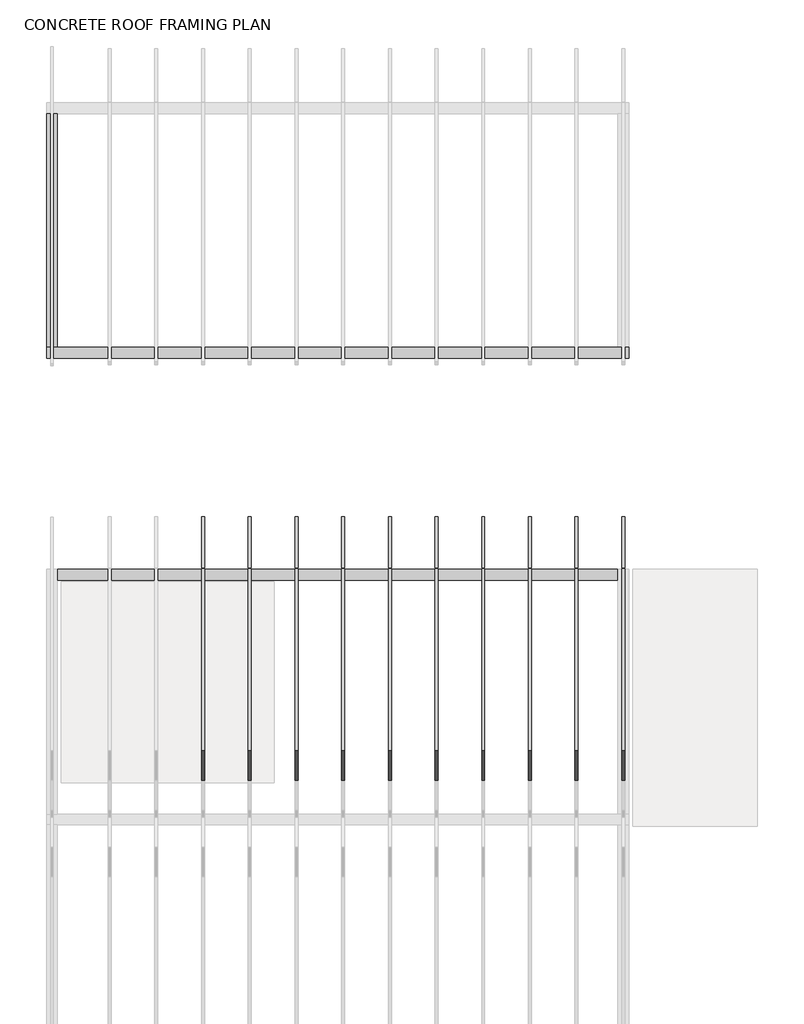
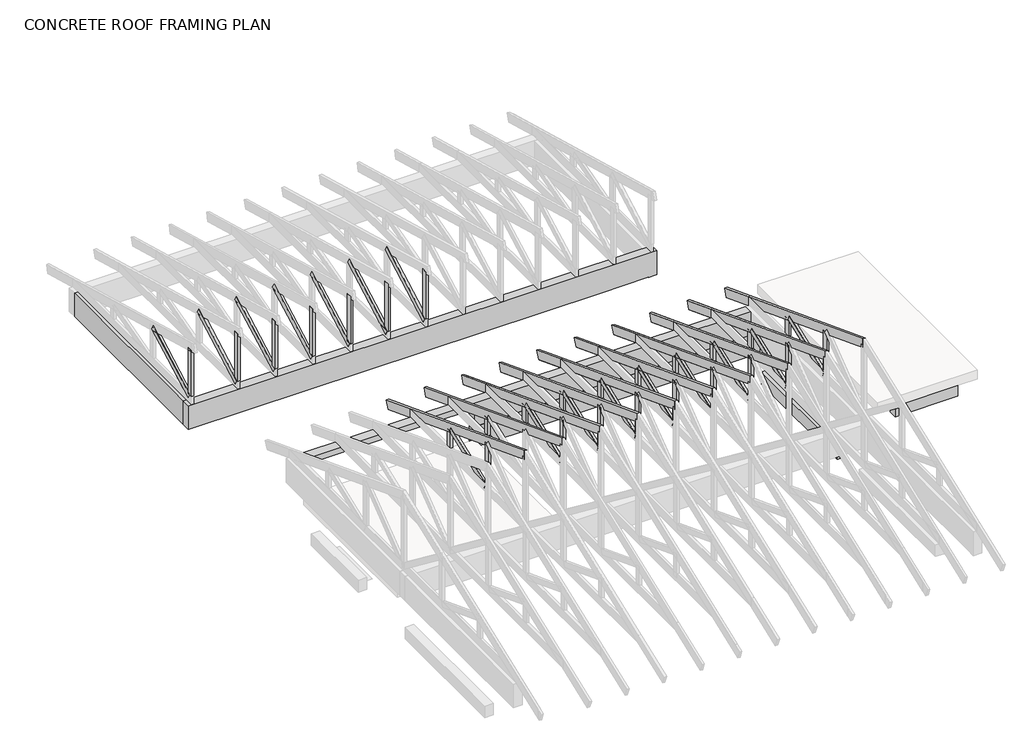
# One storey, part 5 of 6: 59 beams.
"""IFC4 building model written with IfcOpenShell, lengths in millimetres."""

from ifc_helpers import new_model, si_unit, frame, origin, place, context, project, spatial, polyline, outline, extrude, faceted_brep, element, save

model = new_model("IFC4")

# Units and contexts
model_context = context("Model", 3, world=origin())
ifc_project = project(units=[si_unit("LENGTHUNIT", "METRE", prefix="MILLI")], contexts=[model_context])

# Site, building, storey
site = spatial("IfcSite", under=ifc_project)
building = spatial("IfcBuilding", under=site)
storey = spatial("IfcBuildingStorey", under=building, Name="CONCRETE ROOF FRAMING PLAN", Elevation=3048.0)

# Beams
placement = place(None, origin())
element("IfcBeam", 1, ObjectType="Concrete-Rectangular Beam : 5 5/8 x 14", at=placement, inside=storey, context=model_context, shape_type="SweptSolid", body=[
    extrude(outline(polyline([(7610.475, 6391.2749888), (7610.475, 6248.3999888), (2978.15, 6248.3999888), (2978.15, 6391.2749888), (7610.475, 6391.2749888)])), frame((0.0, 0.0, 2438.4), z_axis=(0.0, 0.0, 1.0), x_axis=(1.0, 0.0, 0.0)), (0.0, 0.0, 1.0), 355.6),
])
element("IfcBeam", 2, ObjectType="Concrete-Rectangular Beam : 5 5/8 x 16", at=placement, inside=storey, context=model_context, shape_type="SweptSolid", body=[
    extrude(outline(polyline([(9.525, 12331.2382667), (152.4, 12331.2382667), (152.4, 9283.2382667), (9.525, 9283.2382667), (9.525, 12331.2382667)])), frame((0.0, 0.0, 2032.0), z_axis=(0.0, 0.0, 1.0), x_axis=(1.0, 0.0, 0.0)), (0.0, 0.0, 1.0), 406.4),
])
element("IfcBeam", 3, ObjectType="Concrete-Rectangular Beam : 5 5/8 x 16", at=placement, inside=storey, context=model_context, shape_type="Brep", body=[
    faceted_brep([(9.525, 9283.2382667, 2438.4), (9.525, 9140.3632667, 2438.4), (7610.475, 9140.3632667, 2438.4), (7610.475, 9283.2382667, 2438.4), (7467.6, 9283.2382667, 2438.4), (152.4, 9283.2382667, 2438.4), (9.525, 9283.2382667, 2032.0), (7610.475, 9283.2382667, 2032.0), (7467.6, 9283.2382667, 2032.0), (7467.6, 9283.2382667, 2032.4732556), (6705.6, 9283.2382667, 2032.4732556), (6705.6, 9283.2382667, 2032.0), (152.4, 9283.2382667, 2032.0), (7610.475, 9140.3632667, 2032.0), (7467.6, 9140.3632667, 2032.0), (9.525, 9140.3632667, 2032.0), (6705.6, 9140.3632667, 2032.0), (6705.6, 9140.3632667, 2032.4732556), (7467.6, 9140.3632667, 2032.4732556)], [[[0, 1, 2, 3, 4, 5]], [[6, 0, 5, 4, 3, 7, 8, 9, 10, 11, 12]], [[7, 13, 14, 8]], [[1, 15, 16, 17, 18, 14, 13, 2]], [[1, 0, 6, 15]], [[10, 17, 16, 11]], [[18, 9, 8, 14]], [[17, 10, 9, 18]], [[3, 2, 13, 7]], [[15, 6, 12, 11, 16]]]),
])
element("IfcBeam", 4, ObjectType="Concrete-Rectangular Beam : 5 5/8 x 16", at=placement, inside=storey, context=model_context, shape_type="Brep", body=[
    faceted_brep([(7467.6, 6248.4, 3200.4), (7467.6, 6391.275, 3200.4), (152.4, 6391.275, 3200.4), (152.4, 6248.4, 3200.4), (7467.6, 6248.4, 2794.0), (152.4, 6248.4, 3098.8), (2978.15, 6248.4, 3098.8), (2978.15, 6248.4, 2794.0), (7467.6, 6391.275, 2794.0), (2978.15, 6391.275, 2794.0), (7467.6, 6391.275, 3098.8), (2978.15, 6391.275, 3098.8), (152.4, 6391.275, 3098.8)], [[[0, 1, 2, 3]], [[4, 0, 3, 5, 6, 7]], [[8, 4, 7, 9]], [[1, 10, 8, 9, 11, 12, 2]], [[1, 0, 4, 8, 10]], [[3, 2, 12, 5]], [[11, 6, 5, 12]], [[6, 11, 9, 7]]]),
])
element("IfcBeam", 5, ObjectType="Concrete-Rectangular Beam : 5 5/8 x 8", at=placement, inside=storey, context=model_context, shape_type="SweptSolid", body=[
    extrude(outline(polyline([(7610.475, 3822.8258667), (7467.6, 3822.8258667), (7467.6, 5956.4258667), (7610.475, 5956.4258667), (7610.475, 3822.8258667)])), frame((0.0, 0.0, 2133.6), z_axis=(0.0, 0.0, 1.0), x_axis=(1.0, 0.0, 0.0)), (0.0, 0.0, 1.0), 203.2),
])
element("IfcBeam", 6, ObjectType="Concrete-Rectangular Beam : 5 5/8 x 8", at=placement, inside=storey, context=model_context, shape_type="Brep", body=[
    faceted_brep([(8982.075, 3063.875, 3352.8), (8982.075, 3206.75, 3352.8), (7966.075, 3206.75, 3352.8), (7966.075, 3063.875, 3352.8), (8982.075, 3063.875, 3149.6), (7966.075, 3063.875, 3149.6), (8982.075, 3206.75, 3149.6), (8982.075, 3181.35, 3149.6), (7966.075, 3181.35, 3149.6), (7966.075, 3206.75, 3149.6)], [[[0, 1, 2, 3]], [[4, 0, 3, 5]], [[6, 7, 4, 5, 8, 9]], [[1, 6, 9, 2]], [[1, 0, 4, 7, 6]], [[3, 2, 9, 8, 5]]]),
])
element("IfcBeam", 7, ObjectType="Concrete-Rectangular Beam : 5 5/8 x 8", at=placement, inside=storey, context=model_context, shape_type="Brep", body=[
    faceted_brep([(7966.075, 6365.875, 3352.8), (7966.075, 6223.0, 3352.8), (8982.075, 6223.0, 3352.8), (8982.075, 6365.875, 3352.8), (7966.075, 6223.0, 3149.6), (8982.075, 6223.0, 3149.6), (7966.075, 6248.4, 3149.6), (7966.075, 6365.875, 3149.6), (8982.075, 6365.875, 3149.6), (8982.075, 6248.4, 3149.6)], [[[0, 1, 2, 3]], [[1, 4, 5, 2]], [[4, 6, 7, 8, 9, 5]], [[7, 0, 3, 8]], [[4, 1, 0, 7, 6]], [[3, 2, 5, 9, 8]]]),
])
element("IfcBeam", 8, ObjectType="Dimension Lumber : 2x4", at=placement, inside=storey, context=model_context, shape_type="SweptSolid", body=[
    extrude(outline(polyline([(7519.9875, 4217.9874888), (7519.9875, 4306.8874888), (7558.0875, 4306.8874888), (7558.0875, 4217.9874888), (7519.9875, 4217.9874888)])), frame((0.0, 0.0, 3340.1), z_axis=(0.0, 0.0, 1.0), x_axis=(1.0, 0.0, 0.0)), (0.0, 0.0, 1.0), 702.6647896),
    extrude(outline(polyline([(4306.8874888, 3991.2909709), (4306.8874888, 3340.1), (4217.9874888, 3340.1), (4217.9874888, 4025.2587321), (4306.8874888, 3991.2909709)])), frame((7519.9875, 0.0, 0.0), z_axis=(1.0, 0.0, 0.0), x_axis=(0.0, 1.0, 0.0)), (0.0, 0.0, 1.0), 38.1),
])
element("IfcBeam", 9, ObjectType="Dimension Lumber : 2x4", at=placement, inside=storey, context=model_context, shape_type="SweptSolid", body=[
    extrude(outline(polyline([(7519.9875, 5281.6124888), (7519.9875, 5370.5124888), (7558.0875, 5370.5124888), (7558.0875, 5281.6124888), (7519.9875, 5281.6124888)])), frame((0.0, 0.0, 3340.1), z_axis=(0.0, 0.0, 1.0), x_axis=(1.0, 0.0, 0.0)), (0.0, 0.0, 1.0), 288.9658146),
    extrude(outline(polyline([(5370.5124888, 3584.8909709), (5370.5124888, 3340.1), (5281.6124888, 3340.1), (5281.6124888, 3618.8587321), (5370.5124888, 3584.8909709)])), frame((7519.9875, 0.0, 0.0), z_axis=(1.0, 0.0, 0.0), x_axis=(0.0, 1.0, 0.0)), (0.0, 0.0, 1.0), 38.1),
])
element("IfcBeam", 10, ObjectType="Dimension Lumber : 2x4", at=placement, inside=storey, context=model_context, shape_type="SweptSolid", body=[
    extrude(outline(polyline([(0.0, -38.1), (0.0, 0.0), (1043.4532084, 0.0), (1043.4532084, -38.1), (0.0, -38.1)])), frame((7519.9875, 4322.7527071, 3245.7116294), z_axis=(0.0, -0.3569227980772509, 0.934133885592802), x_axis=(0.0, 0.934133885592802, 0.3569227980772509)), (0.0, 0.0, 1.0), 88.9),
    extrude(outline(polyline([(4322.7527071, 3245.7116294), (4291.0222704, 3328.7561318), (5165.9438292, 3663.0545185), (5290.4805644, 3615.4703331), (4322.7527071, 3245.7116294)])), frame((7519.9875, 0.0, 0.0), z_axis=(1.0, 0.0, 0.0), x_axis=(0.0, 1.0, 0.0)), (0.0, 0.0, 1.0), 38.1),
    extrude(outline(polyline([(4320.7113004, 3340.1), (5165.9438292, 3663.0545185), (5290.4805644, 3615.4703331), (4569.7847709, 3340.1), (4320.7113004, 3340.1)])), frame((7519.9875, 0.0, 0.0), z_axis=(1.0, 0.0, 0.0), x_axis=(0.0, 1.0, 0.0)), (0.0, 0.0, 1.0), 38.1),
])
element("IfcBeam", 11, ObjectType="Dimension Lumber : 2x4", at=placement, inside=storey, context=model_context, shape_type="SweptSolid", body=[
    extrude(outline(polyline([(61.9125, 9229.2632667), (100.0125, 9229.2632667), (100.0125, 9140.3632667), (61.9125, 9140.3632667), (61.9125, 9229.2632667)])), frame((0.0, 0.0, 2578.1), z_axis=(0.0, 0.0, 1.0), x_axis=(1.0, 0.0, 0.0)), (0.0, 0.0, 1.0), 789.3476434),
    extrude(outline(polyline([(9229.2632667, 3327.524966), (9229.2632667, 2578.1), (9140.3632667, 2578.1), (9140.3632667, 3351.9555003), (9229.2632667, 3327.524966)])), frame((61.9125, 0.0, 0.0), z_axis=(1.0, 0.0, 0.0), x_axis=(0.0, 1.0, 0.0)), (0.0, 0.0, 1.0), 38.1),
])
element("IfcBeam", 12, ObjectType="Dimension Lumber : 2x4", at=placement, inside=storey, context=model_context, shape_type="SweptSolid", body=[
    extrude(outline(polyline([(0.0, 38.1), (1165.0883722, 38.1), (1165.0883722, 0.0), (0.0, 0.0), (0.0, 38.1)])), frame((61.9125, 10254.244122, 3066.2479168), z_axis=(0.0, -0.48166192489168, 0.876357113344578), x_axis=(0.0, -0.876357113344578, -0.48166192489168)), (0.0, 0.0, 1.0), 88.9),
    extrude(outline(polyline([(10229.5032206, 3052.6498641), (9233.2106393, 2505.0692088), (9190.3908941, 2582.9773561), (10106.4570266, 3086.4640854), (10229.5032206, 3052.6498641)])), frame((61.9125, 0.0, 0.0), z_axis=(1.0, 0.0, 0.0), x_axis=(0.0, 1.0, 0.0)), (0.0, 0.0, 1.0), 38.1),
    extrude(outline(polyline([(10229.5032206, 3052.6498641), (9366.0861067, 2578.1), (9193.0715784, 2578.1), (9190.3908941, 2582.9773561), (10106.4570266, 3086.4640854), (10229.5032206, 3052.6498641)])), frame((61.9125, 0.0, 0.0), z_axis=(1.0, 0.0, 0.0), x_axis=(0.0, 1.0, 0.0)), (0.0, 0.0, 1.0), 38.1),
])
element("IfcBeam", 13, ObjectType="Dimension Lumber : 2x4", at=placement, inside=storey, context=model_context, shape_type="SweptSolid", body=[
    extrude(outline(polyline([(6910.3875, 4217.9874888), (6910.3875, 4306.8874888), (6948.4875, 4306.8874888), (6948.4875, 4217.9874888), (6910.3875, 4217.9874888)])), frame((0.0, 0.0, 3340.1), z_axis=(0.0, 0.0, 1.0), x_axis=(1.0, 0.0, 0.0)), (0.0, 0.0, 1.0), 702.6647896),
    extrude(outline(polyline([(4306.8874888, 3991.2909709), (4306.8874888, 3340.1), (4217.9874888, 3340.1), (4217.9874888, 4025.2587321), (4306.8874888, 3991.2909709)])), frame((6910.3875, 0.0, 0.0), z_axis=(1.0, 0.0, 0.0), x_axis=(0.0, 1.0, 0.0)), (0.0, 0.0, 1.0), 38.1),
])
element("IfcBeam", 14, ObjectType="Dimension Lumber : 2x4", at=placement, inside=storey, context=model_context, shape_type="SweptSolid", body=[
    extrude(outline(polyline([(6910.3875, 5281.6124888), (6910.3875, 5370.5124888), (6948.4875, 5370.5124888), (6948.4875, 5281.6124888), (6910.3875, 5281.6124888)])), frame((0.0, 0.0, 3340.1), z_axis=(0.0, 0.0, 1.0), x_axis=(1.0, 0.0, 0.0)), (0.0, 0.0, 1.0), 288.9658146),
    extrude(outline(polyline([(5370.5124888, 3584.8909709), (5370.5124888, 3340.1), (5281.6124888, 3340.1), (5281.6124888, 3618.8587321), (5370.5124888, 3584.8909709)])), frame((6910.3875, 0.0, 0.0), z_axis=(1.0, 0.0, 0.0), x_axis=(0.0, 1.0, 0.0)), (0.0, 0.0, 1.0), 38.1),
])
element("IfcBeam", 15, ObjectType="Dimension Lumber : 2x4", at=placement, inside=storey, context=model_context, shape_type="SweptSolid", body=[
    extrude(outline(polyline([(0.0, -38.1), (0.0, 0.0), (1043.4532084, 0.0), (1043.4532084, -38.1), (0.0, -38.1)])), frame((6910.3875, 4322.7527071, 3245.7116294), z_axis=(0.0, -0.3569227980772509, 0.934133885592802), x_axis=(0.0, 0.934133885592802, 0.3569227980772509)), (0.0, 0.0, 1.0), 88.9),
    extrude(outline(polyline([(4320.7113004, 3340.1), (5265.7472704, 3701.1883706), (5297.4777071, 3618.1438682), (4569.7847709, 3340.1), (4320.7113004, 3340.1)])), frame((6910.3875, 0.0, 0.0), z_axis=(1.0, 0.0, 0.0), x_axis=(0.0, 1.0, 0.0)), (0.0, 0.0, 1.0), 38.1),
    extrude(outline(polyline([(4320.7113004, 3340.1), (5165.9438292, 3663.0545185), (5290.4805644, 3615.4703331), (4569.7847709, 3340.1), (4320.7113004, 3340.1)])), frame((6910.3875, 0.0, 0.0), z_axis=(1.0, 0.0, 0.0), x_axis=(0.0, 1.0, 0.0)), (0.0, 0.0, 1.0), 38.1),
])
element("IfcBeam", 16, ObjectType="Dimension Lumber : 2x4", at=placement, inside=storey, context=model_context, shape_type="SweptSolid", body=[
    extrude(outline(polyline([(6300.7875, 4217.9874888), (6300.7875, 4306.8874888), (6338.8875, 4306.8874888), (6338.8875, 4217.9874888), (6300.7875, 4217.9874888)])), frame((0.0, 0.0, 3340.1), z_axis=(0.0, 0.0, 1.0), x_axis=(1.0, 0.0, 0.0)), (0.0, 0.0, 1.0), 702.6647896),
    extrude(outline(polyline([(4306.8874888, 3991.2909709), (4306.8874888, 3340.1), (4217.9874888, 3340.1), (4217.9874888, 4025.2587321), (4306.8874888, 3991.2909709)])), frame((6300.7875, 0.0, 0.0), z_axis=(1.0, 0.0, 0.0), x_axis=(0.0, 1.0, 0.0)), (0.0, 0.0, 1.0), 38.1),
])
element("IfcBeam", 17, ObjectType="Dimension Lumber : 2x4", at=placement, inside=storey, context=model_context, shape_type="SweptSolid", body=[
    extrude(outline(polyline([(6300.7875, 5281.6124888), (6300.7875, 5370.5124888), (6338.8875, 5370.5124888), (6338.8875, 5281.6124888), (6300.7875, 5281.6124888)])), frame((0.0, 0.0, 3340.1), z_axis=(0.0, 0.0, 1.0), x_axis=(1.0, 0.0, 0.0)), (0.0, 0.0, 1.0), 288.9658146),
    extrude(outline(polyline([(5370.5124888, 3584.8909709), (5370.5124888, 3340.1), (5281.6124888, 3340.1), (5281.6124888, 3618.8587321), (5370.5124888, 3584.8909709)])), frame((6300.7875, 0.0, 0.0), z_axis=(1.0, 0.0, 0.0), x_axis=(0.0, 1.0, 0.0)), (0.0, 0.0, 1.0), 38.1),
])
element("IfcBeam", 18, ObjectType="Dimension Lumber : 2x4", at=placement, inside=storey, context=model_context, shape_type="SweptSolid", body=[
    extrude(outline(polyline([(0.0, -38.1), (0.0, 0.0), (1043.4532084, 0.0), (1043.4532084, -38.1), (0.0, -38.1)])), frame((6300.7875, 4322.7527071, 3245.7116294), z_axis=(0.0, -0.3569227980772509, 0.934133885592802), x_axis=(0.0, 0.934133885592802, 0.3569227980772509)), (0.0, 0.0, 1.0), 88.9),
    extrude(outline(polyline([(4320.7113004, 3340.1), (5265.7472704, 3701.1883706), (5297.4777071, 3618.1438682), (4569.7847709, 3340.1), (4320.7113004, 3340.1)])), frame((6300.7875, 0.0, 0.0), z_axis=(1.0, 0.0, 0.0), x_axis=(0.0, 1.0, 0.0)), (0.0, 0.0, 1.0), 38.1),
    extrude(outline(polyline([(4320.7113004, 3340.1), (5165.9438292, 3663.0545185), (5290.4805644, 3615.4703331), (4569.7847709, 3340.1), (4320.7113004, 3340.1)])), frame((6300.7875, 0.0, 0.0), z_axis=(1.0, 0.0, 0.0), x_axis=(0.0, 1.0, 0.0)), (0.0, 0.0, 1.0), 38.1),
])
element("IfcBeam", 19, ObjectType="Dimension Lumber : 2x4", at=placement, inside=storey, context=model_context, shape_type="SweptSolid", body=[
    extrude(outline(polyline([(5691.1875, 4217.9874888), (5691.1875, 4306.8874888), (5729.2875, 4306.8874888), (5729.2875, 4217.9874888), (5691.1875, 4217.9874888)])), frame((0.0, 0.0, 3340.1), z_axis=(0.0, 0.0, 1.0), x_axis=(1.0, 0.0, 0.0)), (0.0, 0.0, 1.0), 702.6647896),
    extrude(outline(polyline([(4306.8874888, 3991.2909709), (4306.8874888, 3340.1), (4217.9874888, 3340.1), (4217.9874888, 4025.2587321), (4306.8874888, 3991.2909709)])), frame((5691.1875, 0.0, 0.0), z_axis=(1.0, 0.0, 0.0), x_axis=(0.0, 1.0, 0.0)), (0.0, 0.0, 1.0), 38.1),
])
element("IfcBeam", 20, ObjectType="Dimension Lumber : 2x4", at=placement, inside=storey, context=model_context, shape_type="SweptSolid", body=[
    extrude(outline(polyline([(5691.1875, 5281.6124888), (5691.1875, 5370.5124888), (5729.2875, 5370.5124888), (5729.2875, 5281.6124888), (5691.1875, 5281.6124888)])), frame((0.0, 0.0, 3340.1), z_axis=(0.0, 0.0, 1.0), x_axis=(1.0, 0.0, 0.0)), (0.0, 0.0, 1.0), 288.9658146),
    extrude(outline(polyline([(5370.5124888, 3584.8909709), (5370.5124888, 3340.1), (5281.6124888, 3340.1), (5281.6124888, 3618.8587321), (5370.5124888, 3584.8909709)])), frame((5691.1875, 0.0, 0.0), z_axis=(1.0, 0.0, 0.0), x_axis=(0.0, 1.0, 0.0)), (0.0, 0.0, 1.0), 38.1),
])
element("IfcBeam", 21, ObjectType="Dimension Lumber : 2x4", at=placement, inside=storey, context=model_context, shape_type="SweptSolid", body=[
    extrude(outline(polyline([(0.0, -38.1), (0.0, 0.0), (1043.4532084, 0.0), (1043.4532084, -38.1), (0.0, -38.1)])), frame((5691.1875, 4322.7527071, 3245.7116294), z_axis=(0.0, -0.3569227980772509, 0.934133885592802), x_axis=(0.0, 0.934133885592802, 0.3569227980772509)), (0.0, 0.0, 1.0), 88.9),
    extrude(outline(polyline([(4320.7113004, 3340.1), (5265.7472704, 3701.1883706), (5297.4777071, 3618.1438682), (4569.7847709, 3340.1), (4320.7113004, 3340.1)])), frame((5691.1875, 0.0, 0.0), z_axis=(1.0, 0.0, 0.0), x_axis=(0.0, 1.0, 0.0)), (0.0, 0.0, 1.0), 38.1),
    extrude(outline(polyline([(4320.7113004, 3340.1), (5165.9438292, 3663.0545185), (5290.4805644, 3615.4703331), (4569.7847709, 3340.1), (4320.7113004, 3340.1)])), frame((5691.1875, 0.0, 0.0), z_axis=(1.0, 0.0, 0.0), x_axis=(0.0, 1.0, 0.0)), (0.0, 0.0, 1.0), 38.1),
])
element("IfcBeam", 22, ObjectType="Dimension Lumber : 2x4", at=placement, inside=storey, context=model_context, shape_type="SweptSolid", body=[
    extrude(outline(polyline([(5081.5875, 4217.9874888), (5081.5875, 4306.8874888), (5119.6875, 4306.8874888), (5119.6875, 4217.9874888), (5081.5875, 4217.9874888)])), frame((0.0, 0.0, 3340.1), z_axis=(0.0, 0.0, 1.0), x_axis=(1.0, 0.0, 0.0)), (0.0, 0.0, 1.0), 702.6647896),
    extrude(outline(polyline([(4306.8874888, 3991.2909709), (4306.8874888, 3340.1), (4217.9874888, 3340.1), (4217.9874888, 4025.2587321), (4306.8874888, 3991.2909709)])), frame((5081.5875, 0.0, 0.0), z_axis=(1.0, 0.0, 0.0), x_axis=(0.0, 1.0, 0.0)), (0.0, 0.0, 1.0), 38.1),
])
element("IfcBeam", 23, ObjectType="Dimension Lumber : 2x4", at=placement, inside=storey, context=model_context, shape_type="SweptSolid", body=[
    extrude(outline(polyline([(5081.5875, 5281.6124888), (5081.5875, 5370.5124888), (5119.6875, 5370.5124888), (5119.6875, 5281.6124888), (5081.5875, 5281.6124888)])), frame((0.0, 0.0, 3340.1), z_axis=(0.0, 0.0, 1.0), x_axis=(1.0, 0.0, 0.0)), (0.0, 0.0, 1.0), 288.9658146),
    extrude(outline(polyline([(5370.5124888, 3584.8909709), (5370.5124888, 3340.1), (5281.6124888, 3340.1), (5281.6124888, 3618.8587321), (5370.5124888, 3584.8909709)])), frame((5081.5875, 0.0, 0.0), z_axis=(1.0, 0.0, 0.0), x_axis=(0.0, 1.0, 0.0)), (0.0, 0.0, 1.0), 38.1),
])
element("IfcBeam", 24, ObjectType="Dimension Lumber : 2x4", at=placement, inside=storey, context=model_context, shape_type="SweptSolid", body=[
    extrude(outline(polyline([(0.0, -38.1), (0.0, 0.0), (1043.4532084, 0.0), (1043.4532084, -38.1), (0.0, -38.1)])), frame((5081.5875, 4322.7527071, 3245.7116294), z_axis=(0.0, -0.3569227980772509, 0.934133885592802), x_axis=(0.0, 0.934133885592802, 0.3569227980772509)), (0.0, 0.0, 1.0), 88.9),
    extrude(outline(polyline([(4320.7113004, 3340.1), (5265.7472704, 3701.1883706), (5297.4777071, 3618.1438682), (4569.7847709, 3340.1), (4320.7113004, 3340.1)])), frame((5081.5875, 0.0, 0.0), z_axis=(1.0, 0.0, 0.0), x_axis=(0.0, 1.0, 0.0)), (0.0, 0.0, 1.0), 38.1),
    extrude(outline(polyline([(4320.7113004, 3340.1), (5165.9438292, 3663.0545185), (5290.4805644, 3615.4703331), (4569.7847709, 3340.1), (4320.7113004, 3340.1)])), frame((5081.5875, 0.0, 0.0), z_axis=(1.0, 0.0, 0.0), x_axis=(0.0, 1.0, 0.0)), (0.0, 0.0, 1.0), 38.1),
])
element("IfcBeam", 25, ObjectType="Dimension Lumber : 2x4", at=placement, inside=storey, context=model_context, shape_type="SweptSolid", body=[
    extrude(outline(polyline([(4471.9875, 4217.9874888), (4471.9875, 4306.8874888), (4510.0875, 4306.8874888), (4510.0875, 4217.9874888), (4471.9875, 4217.9874888)])), frame((0.0, 0.0, 3340.1), z_axis=(0.0, 0.0, 1.0), x_axis=(1.0, 0.0, 0.0)), (0.0, 0.0, 1.0), 702.6647896),
    extrude(outline(polyline([(4306.8874888, 3991.2909709), (4306.8874888, 3340.1), (4217.9874888, 3340.1), (4217.9874888, 4025.2587321), (4306.8874888, 3991.2909709)])), frame((4471.9875, 0.0, 0.0), z_axis=(1.0, 0.0, 0.0), x_axis=(0.0, 1.0, 0.0)), (0.0, 0.0, 1.0), 38.1),
])
element("IfcBeam", 26, ObjectType="Dimension Lumber : 2x4", at=placement, inside=storey, context=model_context, shape_type="SweptSolid", body=[
    extrude(outline(polyline([(4471.9875, 5281.6124888), (4471.9875, 5370.5124888), (4510.0875, 5370.5124888), (4510.0875, 5281.6124888), (4471.9875, 5281.6124888)])), frame((0.0, 0.0, 3340.1), z_axis=(0.0, 0.0, 1.0), x_axis=(1.0, 0.0, 0.0)), (0.0, 0.0, 1.0), 288.9658146),
    extrude(outline(polyline([(5370.5124888, 3584.8909709), (5370.5124888, 3340.1), (5281.6124888, 3340.1), (5281.6124888, 3618.8587321), (5370.5124888, 3584.8909709)])), frame((4471.9875, 0.0, 0.0), z_axis=(1.0, 0.0, 0.0), x_axis=(0.0, 1.0, 0.0)), (0.0, 0.0, 1.0), 38.1),
])
element("IfcBeam", 27, ObjectType="Dimension Lumber : 2x4", at=placement, inside=storey, context=model_context, shape_type="SweptSolid", body=[
    extrude(outline(polyline([(0.0, -38.1), (0.0, 0.0), (1043.4532084, 0.0), (1043.4532084, -38.1), (0.0, -38.1)])), frame((4471.9875, 4322.7527071, 3245.7116294), z_axis=(0.0, -0.3569227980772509, 0.934133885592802), x_axis=(0.0, 0.934133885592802, 0.3569227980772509)), (0.0, 0.0, 1.0), 88.9),
    extrude(outline(polyline([(4320.7113004, 3340.1), (5265.7472704, 3701.1883706), (5297.4777071, 3618.1438682), (4569.7847709, 3340.1), (4320.7113004, 3340.1)])), frame((4471.9875, 0.0, 0.0), z_axis=(1.0, 0.0, 0.0), x_axis=(0.0, 1.0, 0.0)), (0.0, 0.0, 1.0), 38.1),
    extrude(outline(polyline([(4320.7113004, 3340.1), (5165.9438292, 3663.0545185), (5290.4805644, 3615.4703331), (4569.7847709, 3340.1), (4320.7113004, 3340.1)])), frame((4471.9875, 0.0, 0.0), z_axis=(1.0, 0.0, 0.0), x_axis=(0.0, 1.0, 0.0)), (0.0, 0.0, 1.0), 38.1),
])
element("IfcBeam", 28, ObjectType="Dimension Lumber : 2x4", at=placement, inside=storey, context=model_context, shape_type="SweptSolid", body=[
    extrude(outline(polyline([(3862.3875, 4217.9874888), (3862.3875, 4306.8874888), (3900.4875, 4306.8874888), (3900.4875, 4217.9874888), (3862.3875, 4217.9874888)])), frame((0.0, 0.0, 3340.1), z_axis=(0.0, 0.0, 1.0), x_axis=(1.0, 0.0, 0.0)), (0.0, 0.0, 1.0), 702.6647896),
    extrude(outline(polyline([(4306.8874888, 3991.2909709), (4306.8874888, 3340.1), (4217.9874888, 3340.1), (4217.9874888, 4025.2587321), (4306.8874888, 3991.2909709)])), frame((3862.3875, 0.0, 0.0), z_axis=(1.0, 0.0, 0.0), x_axis=(0.0, 1.0, 0.0)), (0.0, 0.0, 1.0), 38.1),
])
element("IfcBeam", 29, ObjectType="Dimension Lumber : 2x4", at=placement, inside=storey, context=model_context, shape_type="SweptSolid", body=[
    extrude(outline(polyline([(3862.3875, 5281.6124888), (3862.3875, 5370.5124888), (3900.4875, 5370.5124888), (3900.4875, 5281.6124888), (3862.3875, 5281.6124888)])), frame((0.0, 0.0, 3340.1), z_axis=(0.0, 0.0, 1.0), x_axis=(1.0, 0.0, 0.0)), (0.0, 0.0, 1.0), 288.9658146),
    extrude(outline(polyline([(5370.5124888, 3584.8909709), (5370.5124888, 3340.1), (5281.6124888, 3340.1), (5281.6124888, 3618.8587321), (5370.5124888, 3584.8909709)])), frame((3862.3875, 0.0, 0.0), z_axis=(1.0, 0.0, 0.0), x_axis=(0.0, 1.0, 0.0)), (0.0, 0.0, 1.0), 38.1),
])
element("IfcBeam", 30, ObjectType="Dimension Lumber : 2x4", at=placement, inside=storey, context=model_context, shape_type="SweptSolid", body=[
    extrude(outline(polyline([(0.0, -38.1), (0.0, 0.0), (1043.4532084, 0.0), (1043.4532084, -38.1), (0.0, -38.1)])), frame((3862.3875, 4322.7527071, 3245.7116294), z_axis=(0.0, -0.3569227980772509, 0.934133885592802), x_axis=(0.0, 0.934133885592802, 0.3569227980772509)), (0.0, 0.0, 1.0), 88.9),
    extrude(outline(polyline([(4320.7113004, 3340.1), (5265.7472704, 3701.1883706), (5297.4777071, 3618.1438682), (4569.7847709, 3340.1), (4320.7113004, 3340.1)])), frame((3862.3875, 0.0, 0.0), z_axis=(1.0, 0.0, 0.0), x_axis=(0.0, 1.0, 0.0)), (0.0, 0.0, 1.0), 38.1),
    extrude(outline(polyline([(4320.7113004, 3340.1), (5165.9438292, 3663.0545185), (5290.4805644, 3615.4703331), (4569.7847709, 3340.1), (4320.7113004, 3340.1)])), frame((3862.3875, 0.0, 0.0), z_axis=(1.0, 0.0, 0.0), x_axis=(0.0, 1.0, 0.0)), (0.0, 0.0, 1.0), 38.1),
])
element("IfcBeam", 31, ObjectType="Dimension Lumber : 2x4", at=placement, inside=storey, context=model_context, shape_type="SweptSolid", body=[
    extrude(outline(polyline([(3252.7875, 4217.9874888), (3252.7875, 4306.8874888), (3290.8875, 4306.8874888), (3290.8875, 4217.9874888), (3252.7875, 4217.9874888)])), frame((0.0, 0.0, 3340.1), z_axis=(0.0, 0.0, 1.0), x_axis=(1.0, 0.0, 0.0)), (0.0, 0.0, 1.0), 702.6647896),
    extrude(outline(polyline([(4306.8874888, 3991.2909709), (4306.8874888, 3340.1), (4217.9874888, 3340.1), (4217.9874888, 4025.2587321), (4306.8874888, 3991.2909709)])), frame((3252.7875, 0.0, 0.0), z_axis=(1.0, 0.0, 0.0), x_axis=(0.0, 1.0, 0.0)), (0.0, 0.0, 1.0), 38.1),
])
element("IfcBeam", 32, ObjectType="Dimension Lumber : 2x4", at=placement, inside=storey, context=model_context, shape_type="SweptSolid", body=[
    extrude(outline(polyline([(3252.7875, 5281.6124888), (3252.7875, 5370.5124888), (3290.8875, 5370.5124888), (3290.8875, 5281.6124888), (3252.7875, 5281.6124888)])), frame((0.0, 0.0, 3340.1), z_axis=(0.0, 0.0, 1.0), x_axis=(1.0, 0.0, 0.0)), (0.0, 0.0, 1.0), 288.9658146),
    extrude(outline(polyline([(5370.5124888, 3584.8909709), (5370.5124888, 3340.1), (5281.6124888, 3340.1), (5281.6124888, 3618.8587321), (5370.5124888, 3584.8909709)])), frame((3252.7875, 0.0, 0.0), z_axis=(1.0, 0.0, 0.0), x_axis=(0.0, 1.0, 0.0)), (0.0, 0.0, 1.0), 38.1),
])
element("IfcBeam", 33, ObjectType="Dimension Lumber : 2x4", at=placement, inside=storey, context=model_context, shape_type="SweptSolid", body=[
    extrude(outline(polyline([(0.0, -38.1), (0.0, 0.0), (1043.4532084, 0.0), (1043.4532084, -38.1), (0.0, -38.1)])), frame((3252.7875, 4322.7527071, 3245.7116294), z_axis=(0.0, -0.3569227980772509, 0.934133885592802), x_axis=(0.0, 0.934133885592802, 0.3569227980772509)), (0.0, 0.0, 1.0), 88.9),
    extrude(outline(polyline([(4320.7113004, 3340.1), (5265.7472704, 3701.1883706), (5297.4777071, 3618.1438682), (4569.7847709, 3340.1), (4320.7113004, 3340.1)])), frame((3252.7875, 0.0, 0.0), z_axis=(1.0, 0.0, 0.0), x_axis=(0.0, 1.0, 0.0)), (0.0, 0.0, 1.0), 38.1),
    extrude(outline(polyline([(4320.7113004, 3340.1), (5165.9438292, 3663.0545185), (5290.4805644, 3615.4703331), (4569.7847709, 3340.1), (4320.7113004, 3340.1)])), frame((3252.7875, 0.0, 0.0), z_axis=(1.0, 0.0, 0.0), x_axis=(0.0, 1.0, 0.0)), (0.0, 0.0, 1.0), 38.1),
])
element("IfcBeam", 34, ObjectType="Dimension Lumber : 2x4", at=placement, inside=storey, context=model_context, shape_type="SweptSolid", body=[
    extrude(outline(polyline([(2643.1875, 5281.6124888), (2643.1875, 5370.5124888), (2681.2875, 5370.5124888), (2681.2875, 5281.6124888), (2643.1875, 5281.6124888)])), frame((0.0, 0.0, 3340.1), z_axis=(0.0, 0.0, 1.0), x_axis=(1.0, 0.0, 0.0)), (0.0, 0.0, 1.0), 288.9658146),
])
element("IfcBeam", 35, ObjectType="Dimension Lumber : 2x4", at=placement, inside=storey, context=model_context, shape_type="SweptSolid", body=[
    extrude(outline(polyline([(2033.5875, 4217.9874888), (2033.5875, 4306.8874888), (2071.6875, 4306.8874888), (2071.6875, 4217.9874888), (2033.5875, 4217.9874888)])), frame((0.0, 0.0, 3340.1), z_axis=(0.0, 0.0, 1.0), x_axis=(1.0, 0.0, 0.0)), (0.0, 0.0, 1.0), 702.6647896),
])
element("IfcBeam", 36, ObjectType="Dimension Lumber : 2x4", at=placement, inside=storey, context=model_context, shape_type="SweptSolid", body=[
    extrude(outline(polyline([(2033.5875, 5281.6124888), (2033.5875, 5370.5124888), (2071.6875, 5370.5124888), (2071.6875, 5281.6124888), (2033.5875, 5281.6124888)])), frame((0.0, 0.0, 3340.1), z_axis=(0.0, 0.0, 1.0), x_axis=(1.0, 0.0, 0.0)), (0.0, 0.0, 1.0), 288.9658146),
])
element("IfcBeam", 37, ObjectType="Dimension Lumber : 2x4", at=placement, inside=storey, context=model_context, shape_type="SweptSolid", body=[
    extrude(outline(polyline([(0.0, -38.1), (0.0, 0.0), (1043.4532084, 0.0), (1043.4532084, -38.1), (0.0, -38.1)])), frame((2033.5875, 4322.7527071, 3245.7116294), z_axis=(0.0, -0.3569227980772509, 0.934133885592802), x_axis=(0.0, 0.934133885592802, 0.3569227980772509)), (0.0, 0.0, 1.0), 88.9),
])
element("IfcBeam", 38, ObjectType="Dimension Lumber : 2x4", at=placement, inside=storey, context=model_context, shape_type="SweptSolid", body=[
    extrude(outline(polyline([(3862.3875, 9229.2632667), (3900.4875, 9229.2632667), (3900.4875, 9140.3632667), (3862.3875, 9140.3632667), (3862.3875, 9229.2632667)])), frame((0.0, 0.0, 2578.1), z_axis=(0.0, 0.0, 1.0), x_axis=(1.0, 0.0, 0.0)), (0.0, 0.0, 1.0), 810.1628409),
])
element("IfcBeam", 39, ObjectType="Dimension Lumber : 2x4", at=placement, inside=storey, context=model_context, shape_type="SweptSolid", body=[
    extrude(outline(polyline([(0.0, 38.1), (1222.1425684, 38.1), (1222.1425684, 0.0), (0.0, 0.0), (0.0, 38.1)])), frame((3862.3875, 10277.2564726, 3078.8959263), z_axis=(0.0, -0.48166192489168, 0.876357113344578), x_axis=(0.0, -0.876357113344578, -0.48166192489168)), (0.0, 0.0, 1.0), 88.9),
])
element("IfcBeam", 40, ObjectType="Dimension Lumber : 2x4", at=placement, inside=storey, context=model_context, shape_type="SweptSolid", body=[
    extrude(outline(polyline([(3252.7875, 9229.2632667), (3290.8875, 9229.2632667), (3290.8875, 9140.3632667), (3252.7875, 9140.3632667), (3252.7875, 9229.2632667)])), frame((0.0, 0.0, 2578.1), z_axis=(0.0, 0.0, 1.0), x_axis=(1.0, 0.0, 0.0)), (0.0, 0.0, 1.0), 810.1628409),
])
element("IfcBeam", 41, ObjectType="Dimension Lumber : 2x4", at=placement, inside=storey, context=model_context, shape_type="SweptSolid", body=[
    extrude(outline(polyline([(0.0, 38.1), (1222.1425684, 38.1), (1222.1425684, 0.0), (0.0, 0.0), (0.0, 38.1)])), frame((3252.7875, 10277.2564726, 3078.8959263), z_axis=(0.0, -0.48166192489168, 0.876357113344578), x_axis=(0.0, -0.876357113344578, -0.48166192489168)), (0.0, 0.0, 1.0), 88.9),
])
element("IfcBeam", 42, ObjectType="Dimension Lumber : 2x4", at=placement, inside=storey, context=model_context, shape_type="SweptSolid", body=[
    extrude(outline(polyline([(2643.1875, 9229.2632667), (2681.2875, 9229.2632667), (2681.2875, 9140.3632667), (2643.1875, 9140.3632667), (2643.1875, 9229.2632667)])), frame((0.0, 0.0, 2578.1), z_axis=(0.0, 0.0, 1.0), x_axis=(1.0, 0.0, 0.0)), (0.0, 0.0, 1.0), 810.1628409),
])
element("IfcBeam", 43, ObjectType="Dimension Lumber : 2x4", at=placement, inside=storey, context=model_context, shape_type="SweptSolid", body=[
    extrude(outline(polyline([(0.0, 38.1), (1222.1425684, 38.1), (1222.1425684, 0.0), (0.0, 0.0), (0.0, 38.1)])), frame((2643.1875, 10277.2564726, 3078.8959263), z_axis=(0.0, -0.48166192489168, 0.876357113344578), x_axis=(0.0, -0.876357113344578, -0.48166192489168)), (0.0, 0.0, 1.0), 88.9),
])
element("IfcBeam", 44, ObjectType="Dimension Lumber : 2x4", at=placement, inside=storey, context=model_context, shape_type="SweptSolid", body=[
    extrude(outline(polyline([(2033.5875, 9229.2632667), (2071.6875, 9229.2632667), (2071.6875, 9140.3632667), (2033.5875, 9140.3632667), (2033.5875, 9229.2632667)])), frame((0.0, 0.0, 2578.1), z_axis=(0.0, 0.0, 1.0), x_axis=(1.0, 0.0, 0.0)), (0.0, 0.0, 1.0), 810.1628409),
])
element("IfcBeam", 45, ObjectType="Dimension Lumber : 2x4", at=placement, inside=storey, context=model_context, shape_type="SweptSolid", body=[
    extrude(outline(polyline([(0.0, 38.1), (1222.1425684, 38.1), (1222.1425684, 0.0), (0.0, 0.0), (0.0, 38.1)])), frame((2033.5875, 10277.2564726, 3078.8959263), z_axis=(0.0, -0.48166192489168, 0.876357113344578), x_axis=(0.0, -0.876357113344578, -0.48166192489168)), (0.0, 0.0, 1.0), 88.9),
])
element("IfcBeam", 46, ObjectType="Dimension Lumber : 2x4", at=placement, inside=storey, context=model_context, shape_type="SweptSolid", body=[
    extrude(outline(polyline([(1423.9875, 9229.2632667), (1462.0875, 9229.2632667), (1462.0875, 9140.3632667), (1423.9875, 9140.3632667), (1423.9875, 9229.2632667)])), frame((0.0, 0.0, 2578.1), z_axis=(0.0, 0.0, 1.0), x_axis=(1.0, 0.0, 0.0)), (0.0, 0.0, 1.0), 810.1628409),
])
element("IfcBeam", 47, ObjectType="Dimension Lumber : 2x4", at=placement, inside=storey, context=model_context, shape_type="SweptSolid", body=[
    extrude(outline(polyline([(0.0, 38.1), (1222.1425684, 38.1), (1222.1425684, 0.0), (0.0, 0.0), (0.0, 38.1)])), frame((1423.9875, 10277.2564726, 3078.8959263), z_axis=(0.0, -0.48166192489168, 0.876357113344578), x_axis=(0.0, -0.876357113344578, -0.48166192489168)), (0.0, 0.0, 1.0), 88.9),
])
element("IfcBeam", 48, ObjectType="Dimension Lumber : 2x4", at=placement, inside=storey, context=model_context, shape_type="SweptSolid", body=[
    extrude(outline(polyline([(814.3875, 9229.2632667), (852.4875, 9229.2632667), (852.4875, 9140.3632667), (814.3875, 9140.3632667), (814.3875, 9229.2632667)])), frame((0.0, 0.0, 2578.1), z_axis=(0.0, 0.0, 1.0), x_axis=(1.0, 0.0, 0.0)), (0.0, 0.0, 1.0), 810.1628409),
])
element("IfcBeam", 49, ObjectType="Dimension Lumber : 2x4", at=placement, inside=storey, context=model_context, shape_type="SweptSolid", body=[
    extrude(outline(polyline([(0.0, 38.1), (1222.1425684, 38.1), (1222.1425684, 0.0), (0.0, 0.0), (0.0, 38.1)])), frame((814.3875, 10277.2564726, 3078.8959263), z_axis=(0.0, -0.48166192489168, 0.876357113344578), x_axis=(0.0, -0.876357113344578, -0.48166192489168)), (0.0, 0.0, 1.0), 88.9),
])
element("IfcBeam", 50, ObjectType="Dimension Lumber : 2x6", at=placement, inside=storey, context=model_context, shape_type="SweptSolid", body=[
    extrude(outline(polyline([(3198.8124888, 4414.6748515), (3198.8124888, 4564.2251485), (7077.1431246, 3082.3555324), (7027.2810097, 2951.8570286), (3198.8124888, 4414.6748515)])), frame((7519.9875, 0.0, 0.0), z_axis=(1.0, 0.0, 0.0), x_axis=(0.0, 1.0, 0.0)), (0.0, 0.0, 1.0), 38.1),
    extrude(outline(polyline([(3198.8124888, 4414.6748515), (3198.8124888, 4564.2251485), (7000.875, 3111.496786), (7000.875, 2961.946489), (3198.8124888, 4414.6748515)])), frame((7519.9875, 0.0, 0.0), z_axis=(1.0, 0.0, 0.0), x_axis=(0.0, 1.0, 0.0)), (0.0, 0.0, 1.0), 38.1),
])
element("IfcBeam", 51, ObjectType="Dimension Lumber : 2x6", at=placement, inside=storey, context=model_context, shape_type="SweptSolid", body=[
    extrude(outline(polyline([(3198.8124888, 4414.6748515), (3198.8124888, 4564.2251485), (7077.1431246, 3082.3555324), (7027.2810097, 2951.8570286), (3198.8124888, 4414.6748515)])), frame((6910.3875, 0.0, 0.0), z_axis=(1.0, 0.0, 0.0), x_axis=(0.0, 1.0, 0.0)), (0.0, 0.0, 1.0), 38.1),
    extrude(outline(polyline([(3198.8124888, 4414.6748515), (3198.8124888, 4564.2251485), (7000.875, 3111.496786), (7000.875, 2961.946489), (3198.8124888, 4414.6748515)])), frame((6910.3875, 0.0, 0.0), z_axis=(1.0, 0.0, 0.0), x_axis=(0.0, 1.0, 0.0)), (0.0, 0.0, 1.0), 38.1),
])
element("IfcBeam", 52, ObjectType="Dimension Lumber : 2x6", at=placement, inside=storey, context=model_context, shape_type="SweptSolid", body=[
    extrude(outline(polyline([(3198.8124888, 4414.6748515), (3198.8124888, 4564.2251485), (7077.1431246, 3082.3555324), (7027.2810097, 2951.8570286), (3198.8124888, 4414.6748515)])), frame((6300.7875, 0.0, 0.0), z_axis=(1.0, 0.0, 0.0), x_axis=(0.0, 1.0, 0.0)), (0.0, 0.0, 1.0), 38.1),
    extrude(outline(polyline([(3198.8124888, 4414.6748515), (3198.8124888, 4564.2251485), (7000.875, 3111.496786), (7000.875, 2961.946489), (3198.8124888, 4414.6748515)])), frame((6300.7875, 0.0, 0.0), z_axis=(1.0, 0.0, 0.0), x_axis=(0.0, 1.0, 0.0)), (0.0, 0.0, 1.0), 38.1),
])
element("IfcBeam", 53, ObjectType="Dimension Lumber : 2x6", at=placement, inside=storey, context=model_context, shape_type="SweptSolid", body=[
    extrude(outline(polyline([(3198.8124888, 4414.6748515), (3198.8124888, 4564.2251485), (7077.1431246, 3082.3555324), (7027.2810097, 2951.8570286), (3198.8124888, 4414.6748515)])), frame((5691.1875, 0.0, 0.0), z_axis=(1.0, 0.0, 0.0), x_axis=(0.0, 1.0, 0.0)), (0.0, 0.0, 1.0), 38.1),
    extrude(outline(polyline([(3198.8124888, 4414.6748515), (3198.8124888, 4564.2251485), (7000.875, 3111.496786), (7000.875, 2961.946489), (3198.8124888, 4414.6748515)])), frame((5691.1875, 0.0, 0.0), z_axis=(1.0, 0.0, 0.0), x_axis=(0.0, 1.0, 0.0)), (0.0, 0.0, 1.0), 38.1),
])
element("IfcBeam", 54, ObjectType="Dimension Lumber : 2x6", at=placement, inside=storey, context=model_context, shape_type="SweptSolid", body=[
    extrude(outline(polyline([(3198.8124888, 4414.6748515), (3198.8124888, 4564.2251485), (7077.1431246, 3082.3555324), (7027.2810097, 2951.8570286), (3198.8124888, 4414.6748515)])), frame((5081.5875, 0.0, 0.0), z_axis=(1.0, 0.0, 0.0), x_axis=(0.0, 1.0, 0.0)), (0.0, 0.0, 1.0), 38.1),
    extrude(outline(polyline([(3198.8124888, 4414.6748515), (3198.8124888, 4564.2251485), (7000.875, 3111.496786), (7000.875, 2961.946489), (3198.8124888, 4414.6748515)])), frame((5081.5875, 0.0, 0.0), z_axis=(1.0, 0.0, 0.0), x_axis=(0.0, 1.0, 0.0)), (0.0, 0.0, 1.0), 38.1),
])
element("IfcBeam", 55, ObjectType="Dimension Lumber : 2x6", at=placement, inside=storey, context=model_context, shape_type="SweptSolid", body=[
    extrude(outline(polyline([(3198.8124888, 4414.6748515), (3198.8124888, 4564.2251485), (7077.1431246, 3082.3555324), (7027.2810097, 2951.8570286), (3198.8124888, 4414.6748515)])), frame((4471.9875, 0.0, 0.0), z_axis=(1.0, 0.0, 0.0), x_axis=(0.0, 1.0, 0.0)), (0.0, 0.0, 1.0), 38.1),
    extrude(outline(polyline([(3198.8124888, 4414.6748515), (3198.8124888, 4564.2251485), (7000.875, 3111.496786), (7000.875, 2961.946489), (3198.8124888, 4414.6748515)])), frame((4471.9875, 0.0, 0.0), z_axis=(1.0, 0.0, 0.0), x_axis=(0.0, 1.0, 0.0)), (0.0, 0.0, 1.0), 38.1),
])
element("IfcBeam", 56, ObjectType="Dimension Lumber : 2x6", at=placement, inside=storey, context=model_context, shape_type="SweptSolid", body=[
    extrude(outline(polyline([(3198.8124888, 4414.6748515), (3198.8124888, 4564.2251485), (7077.1431246, 3082.3555324), (7027.2810097, 2951.8570286), (3198.8124888, 4414.6748515)])), frame((3862.3875, 0.0, 0.0), z_axis=(1.0, 0.0, 0.0), x_axis=(0.0, 1.0, 0.0)), (0.0, 0.0, 1.0), 38.1),
    extrude(outline(polyline([(3198.8124888, 4414.6748515), (3198.8124888, 4564.2251485), (7000.875, 3111.496786), (7000.875, 2961.946489), (3198.8124888, 4414.6748515)])), frame((3862.3875, 0.0, 0.0), z_axis=(1.0, 0.0, 0.0), x_axis=(0.0, 1.0, 0.0)), (0.0, 0.0, 1.0), 38.1),
])
element("IfcBeam", 57, ObjectType="Dimension Lumber : 2x6", at=placement, inside=storey, context=model_context, shape_type="SweptSolid", body=[
    extrude(outline(polyline([(3198.8124888, 4414.6748515), (3198.8124888, 4564.2251485), (7077.1431246, 3082.3555324), (7027.2810097, 2951.8570286), (3198.8124888, 4414.6748515)])), frame((3252.7875, 0.0, 0.0), z_axis=(1.0, 0.0, 0.0), x_axis=(0.0, 1.0, 0.0)), (0.0, 0.0, 1.0), 38.1),
    extrude(outline(polyline([(3198.8124888, 4414.6748515), (3198.8124888, 4564.2251485), (7000.875, 3111.496786), (7000.875, 2961.946489), (3198.8124888, 4414.6748515)])), frame((3252.7875, 0.0, 0.0), z_axis=(1.0, 0.0, 0.0), x_axis=(0.0, 1.0, 0.0)), (0.0, 0.0, 1.0), 38.1),
])
element("IfcBeam", 58, ObjectType="Dimension Lumber : 2x6", at=placement, inside=storey, context=model_context, shape_type="SweptSolid", body=[
    extrude(outline(polyline([(3198.8124888, 4414.6748515), (3198.8124888, 4564.2251485), (7077.1431246, 3082.3555324), (7027.2810097, 2951.8570286), (3198.8124888, 4414.6748515)])), frame((2643.1875, 0.0, 0.0), z_axis=(1.0, 0.0, 0.0), x_axis=(0.0, 1.0, 0.0)), (0.0, 0.0, 1.0), 38.1),
])
element("IfcBeam", 59, ObjectType="Dimension Lumber : 2x6", at=placement, inside=storey, context=model_context, shape_type="SweptSolid", body=[
    extrude(outline(polyline([(3198.8124888, 4414.6748515), (3198.8124888, 4564.2251485), (7077.1431246, 3082.3555324), (7027.2810097, 2951.8570286), (3198.8124888, 4414.6748515)])), frame((2033.5875, 0.0, 0.0), z_axis=(1.0, 0.0, 0.0), x_axis=(0.0, 1.0, 0.0)), (0.0, 0.0, 1.0), 38.1),
])

save(model, "model.ifc")
